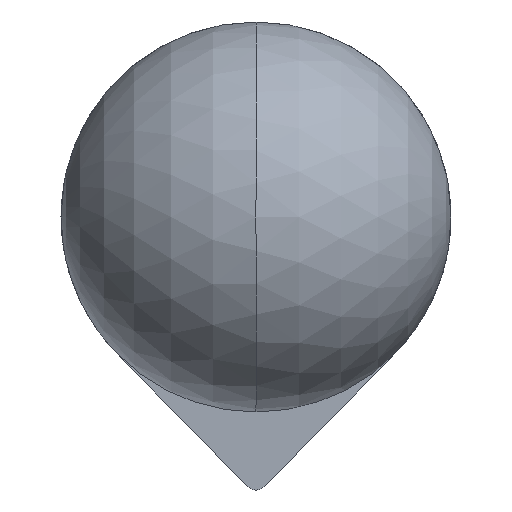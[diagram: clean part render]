
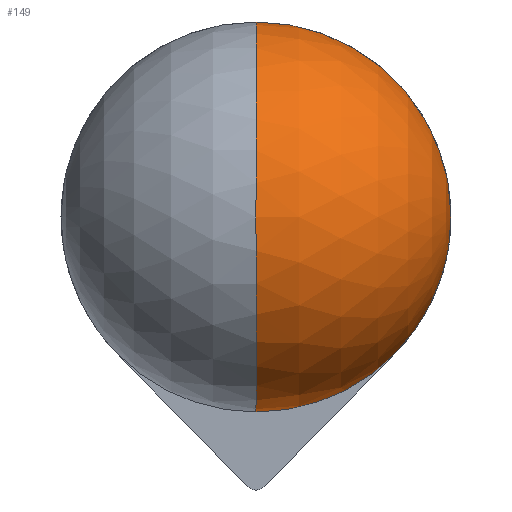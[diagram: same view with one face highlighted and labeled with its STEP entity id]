
A CAD part, front view. The second image highlights one B-rep face of the part: STEP entity #149.
In plain terms, the highlighted spherical face has radius 5 mm.
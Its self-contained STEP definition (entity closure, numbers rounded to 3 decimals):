
#32 = CARTESIAN_POINT ( 'NONE',  ( 0., 24., -5. ) ) ;
#58 = ORIENTED_EDGE ( 'NONE', *, *, #534, .T. ) ;
#68 = AXIS2_PLACEMENT_3D ( 'NONE', #322, #332, #1055 ) ;
#80 = AXIS2_PLACEMENT_3D ( 'NONE', #533, #798, #261 ) ;
#138 = CARTESIAN_POINT ( 'NONE',  ( 0., 24., 0. ) ) ;
#149 = ADVANCED_FACE ( 'NONE', ( #369 ), #934, .T. ) ;
#191 = CIRCLE ( 'NONE', #68, 5. ) ;
#239 = CARTESIAN_POINT ( 'NONE',  ( 0., 24., 5. ) ) ;
#261 = DIRECTION ( 'NONE',  ( 0., 0., 1. ) ) ;
#303 = VERTEX_POINT ( 'NONE', #239 ) ;
#313 = DIRECTION ( 'NONE',  ( -1., 0., 0. ) ) ;
#322 = CARTESIAN_POINT ( 'NONE',  ( 0., 24., 0. ) ) ;
#330 = EDGE_CURVE ( 'NONE', #303, #631, #570, .T. ) ;
#332 = DIRECTION ( 'NONE',  ( 0., 1., 0. ) ) ;
#338 = DIRECTION ( 'NONE',  ( 1., 0., 0. ) ) ;
#369 = FACE_OUTER_BOUND ( 'NONE', #692, .T. ) ;
#475 = CARTESIAN_POINT ( 'NONE',  ( 0., 24., 0. ) ) ;
#533 = CARTESIAN_POINT ( 'NONE',  ( 0., 24., 0. ) ) ;
#534 = EDGE_CURVE ( 'NONE', #988, #779, #725, .T. ) ;
#570 = CIRCLE ( 'NONE', #756, 5. ) ;
#594 = DIRECTION ( 'NONE',  ( 0., 0., -1. ) ) ;
#631 = VERTEX_POINT ( 'NONE', #641 ) ;
#641 = CARTESIAN_POINT ( 'NONE',  ( 0., 29., 0. ) ) ;
#692 = EDGE_LOOP ( 'NONE', ( #877, #722, #979, #58 ) ) ;
#722 = ORIENTED_EDGE ( 'NONE', *, *, #330, .T. ) ;
#725 = CIRCLE ( 'NONE', #80, 5. ) ;
#744 = CARTESIAN_POINT ( 'NONE',  ( -3.563, 24., -3.507 ) ) ;
#756 = AXIS2_PLACEMENT_3D ( 'NONE', #1045, #944, #1028 ) ;
#779 = VERTEX_POINT ( 'NONE', #744 ) ;
#798 = DIRECTION ( 'NONE',  ( 0., 1., 0. ) ) ;
#839 = DIRECTION ( 'NONE',  ( 0., 0., -1. ) ) ;
#877 = ORIENTED_EDGE ( 'NONE', *, *, #1013, .T. ) ;
#934 = SPHERICAL_SURFACE ( 'NONE', #1068, 5. ) ;
#944 = DIRECTION ( 'NONE',  ( -1., 0., 0. ) ) ;
#951 = AXIS2_PLACEMENT_3D ( 'NONE', #138, #338, #594 ) ;
#979 = ORIENTED_EDGE ( 'NONE', *, *, #1027, .F. ) ;
#988 = VERTEX_POINT ( 'NONE', #32 ) ;
#1004 = CIRCLE ( 'NONE', #951, 5. ) ;
#1013 = EDGE_CURVE ( 'NONE', #779, #303, #191, .T. ) ;
#1027 = EDGE_CURVE ( 'NONE', #988, #631, #1004, .T. ) ;
#1028 = DIRECTION ( 'NONE',  ( 0., 0., 1. ) ) ;
#1045 = CARTESIAN_POINT ( 'NONE',  ( 0., 24., 0. ) ) ;
#1055 = DIRECTION ( 'NONE',  ( 0., 0., 1. ) ) ;
#1068 = AXIS2_PLACEMENT_3D ( 'NONE', #475, #313, #839 ) ;
